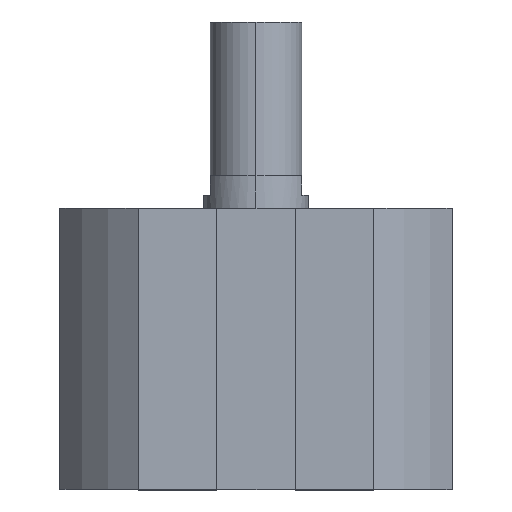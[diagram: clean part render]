
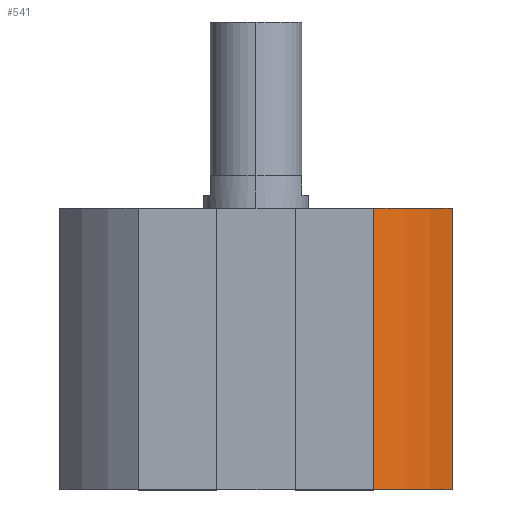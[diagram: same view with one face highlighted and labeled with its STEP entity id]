
A CAD part, top view. The second image highlights one B-rep face of the part: STEP entity #541.
In plain terms, the highlighted cylindrical face has radius 35 mm (diameter 70 mm), a partial arc.
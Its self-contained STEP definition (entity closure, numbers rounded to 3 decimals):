
#42 = CIRCLE ( 'NONE', #3381, 35. ) ;
#146 = EDGE_CURVE ( 'NONE', #744, #1270, #42, .T. ) ;
#305 = AXIS2_PLACEMENT_3D ( 'NONE', #1963, #3022, #1928 ) ;
#371 = DIRECTION ( 'NONE',  ( 0., 1., 0. ) ) ;
#541 = ADVANCED_FACE ( 'NONE', ( #1005 ), #2684, .T. ) ;
#638 = DIRECTION ( 'NONE',  ( 0., 0., 1. ) ) ;
#672 = CARTESIAN_POINT ( 'NONE',  ( 18.028, -43., 30. ) ) ;
#744 = VERTEX_POINT ( 'NONE', #1689 ) ;
#779 = EDGE_CURVE ( 'NONE', #1031, #1270, #2943, .T. ) ;
#1005 = FACE_OUTER_BOUND ( 'NONE', #1238, .T. ) ;
#1031 = VERTEX_POINT ( 'NONE', #2372 ) ;
#1126 = VERTEX_POINT ( 'NONE', #2665 ) ;
#1164 = CARTESIAN_POINT ( 'NONE',  ( 0., 0., 0. ) ) ;
#1238 = EDGE_LOOP ( 'NONE', ( #2756, #2618, #2236, #3182 ) ) ;
#1270 = VERTEX_POINT ( 'NONE', #3274 ) ;
#1347 = CIRCLE ( 'NONE', #305, 35. ) ;
#1689 = CARTESIAN_POINT ( 'NONE',  ( 18.028, 0., 30. ) ) ;
#1928 = DIRECTION ( 'NONE',  ( 0., 0., 1. ) ) ;
#1963 = CARTESIAN_POINT ( 'NONE',  ( 0., -43., 0. ) ) ;
#2105 = LINE ( 'NONE', #672, #2607 ) ;
#2221 = VECTOR ( 'NONE', #2269, 1000. ) ;
#2236 = ORIENTED_EDGE ( 'NONE', *, *, #2580, .T. ) ;
#2269 = DIRECTION ( 'NONE',  ( 0., 1., 0. ) ) ;
#2316 = AXIS2_PLACEMENT_3D ( 'NONE', #2946, #2921, #2691 ) ;
#2372 = CARTESIAN_POINT ( 'NONE',  ( 30., -43., 18.028 ) ) ;
#2518 = DIRECTION ( 'NONE',  ( 0., 1., 0. ) ) ;
#2580 = EDGE_CURVE ( 'NONE', #1126, #1031, #1347, .T. ) ;
#2607 = VECTOR ( 'NONE', #2518, 1000. ) ;
#2618 = ORIENTED_EDGE ( 'NONE', *, *, #2710, .F. ) ;
#2665 = CARTESIAN_POINT ( 'NONE',  ( 18.028, -43., 30. ) ) ;
#2684 = CYLINDRICAL_SURFACE ( 'NONE', #2316, 35. ) ;
#2691 = DIRECTION ( 'NONE',  ( 0., 0., 1. ) ) ;
#2710 = EDGE_CURVE ( 'NONE', #1126, #744, #2105, .T. ) ;
#2756 = ORIENTED_EDGE ( 'NONE', *, *, #146, .F. ) ;
#2921 = DIRECTION ( 'NONE',  ( 0., 1., 0. ) ) ;
#2943 = LINE ( 'NONE', #3057, #2221 ) ;
#2946 = CARTESIAN_POINT ( 'NONE',  ( 0., -43., 0. ) ) ;
#3022 = DIRECTION ( 'NONE',  ( 0., 1., 0. ) ) ;
#3057 = CARTESIAN_POINT ( 'NONE',  ( 30., -43., 18.028 ) ) ;
#3182 = ORIENTED_EDGE ( 'NONE', *, *, #779, .T. ) ;
#3274 = CARTESIAN_POINT ( 'NONE',  ( 30., 0., 18.028 ) ) ;
#3381 = AXIS2_PLACEMENT_3D ( 'NONE', #1164, #371, #638 ) ;
